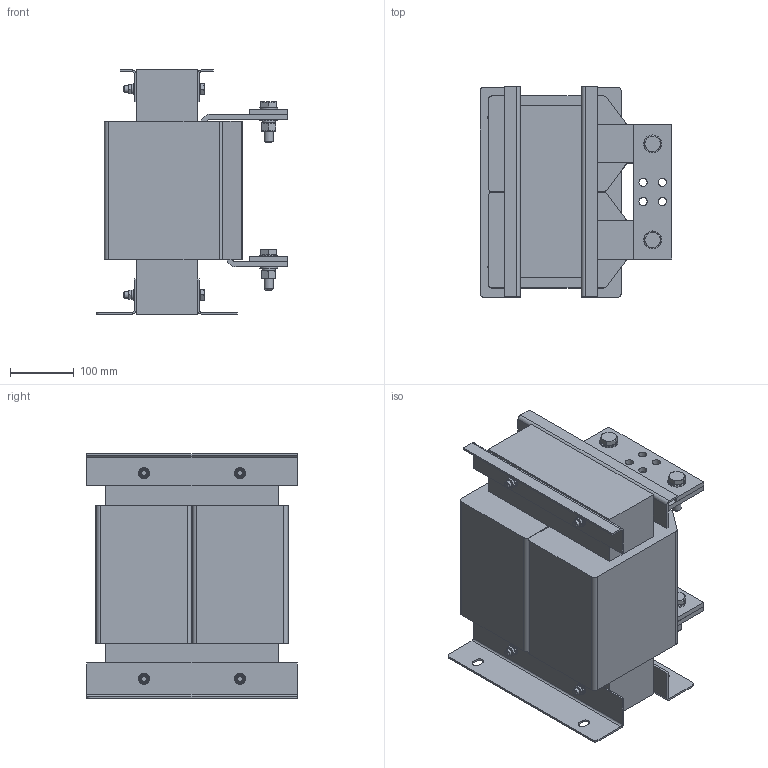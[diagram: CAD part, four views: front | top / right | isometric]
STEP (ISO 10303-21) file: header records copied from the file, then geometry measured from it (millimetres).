
FILE_DESCRIPTION(('STEP AP203'), '1');
FILE_NAME('DC-700-04 _ Äðîññåëü ïîñòîÿííîãî òîêà', '', ('UNSPECIFIED'), ('UNSPECIFIED'), 'C3D Converter', 'C3D Toolkit', '');
FILE_SCHEMA(('CONFIG_CONTROL_DESIGN'));
Length unit declared in the file: millimetre
Products named in the file (9): DC-700-04
Assembly tree (40 placements, depth 2):
  DC-700-04
    (unnamed)  x8
    (unnamed)  x4
    (unnamed)  x4
    (unnamed)  x4
    (unnamed)  x8
    (unnamed)  x4
    (unnamed)  x4
    (unnamed)  x4
Bounding box: 300.5 x 330 x 383 mm (x, y, z)
Volume: 18664440.8 mm3; surface area: 989370.4 mm2
Topology: 47 solids, 47 shells, 536 faces, 1184 edges, 752 vertices
Faces by surface type: plane 324, cylinder 136, cone 68, torus 8
Full cylindrical faces by diameter (mm): 8.376 x4, 10 x4, 10.5 x8, 11 x12, 11.835 x4, 13 x8, 14 x8, 15 x12, 18 x8, 24 x4, 28 x8
Entity records: 11666 total; most frequent: CARTESIAN_POINT 3039, DIRECTION 1292, ORIENTED_EDGE 1140, EDGE_CURVE 570, AXIS2_PLACEMENT_3D 479, VERTEX_POINT 402, EDGE_LOOP 380, LINE 334
